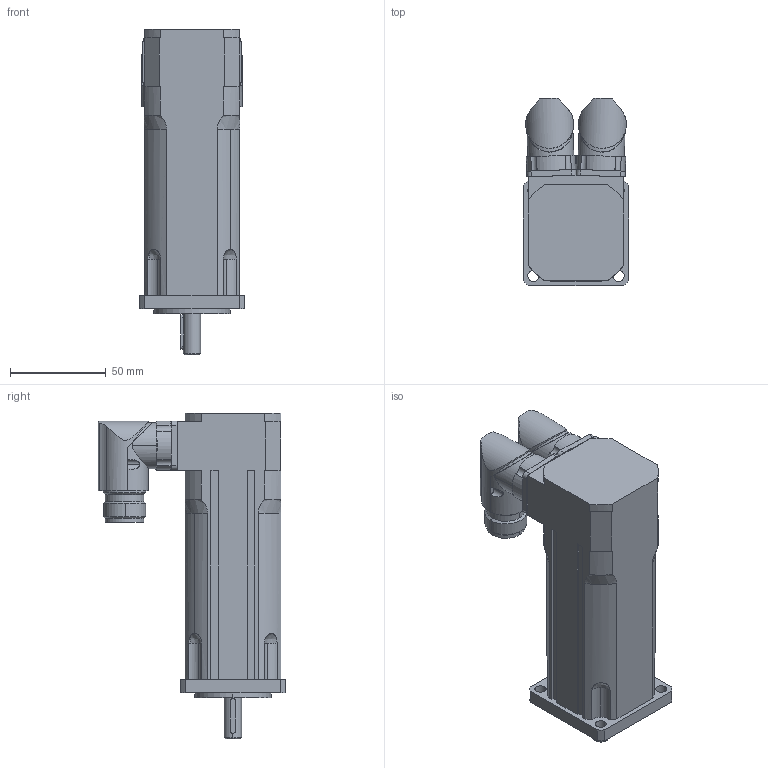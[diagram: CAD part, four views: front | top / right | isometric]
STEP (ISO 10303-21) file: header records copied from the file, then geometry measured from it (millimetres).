
FILE_DESCRIPTION(('STEP AP203'),'2;1');
FILE_NAME('MT2-0040_B.stp','2006-08-28T19:59:18',(''),(''),'2005.2.102','THINKDESIGN','');
FILE_SCHEMA(('CONFIG_CONTROL_DESIGN'));
Length unit declared in the file: millimetre
Bounding box: 55 x 97.7 x 170 mm (x, y, z)
Volume: 398656.4 mm3; surface area: 55844.7 mm2
Topology: 3 solids, 3 shells, 264 faces, 698 edges, 450 vertices
Faces by surface type: cylinder 118, plane 102, bspline 44
Entity records: 9929 total; most frequent: CARTESIAN_POINT 3292, ORIENTED_EDGE 1396, DIRECTION 1372, EDGE_CURVE 698, AXIS2_PLACEMENT_3D 524, VERTEX_POINT 450, VECTOR 324, LINE 324
